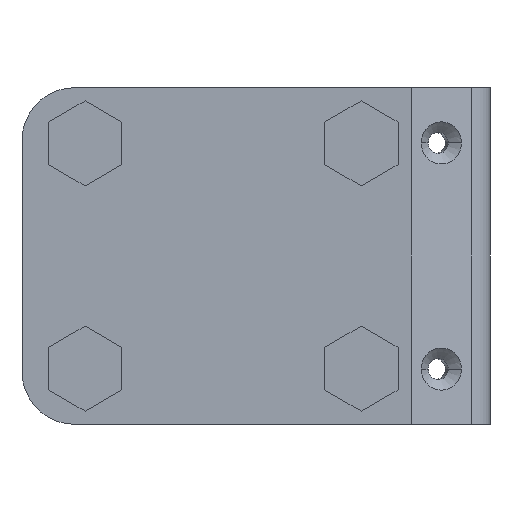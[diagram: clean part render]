
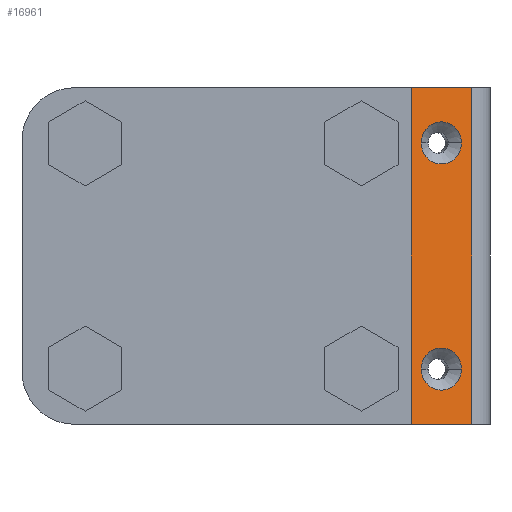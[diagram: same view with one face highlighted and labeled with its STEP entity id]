
A CAD part, front view. The second image highlights one B-rep face of the part: STEP entity #16961.
In plain terms, the highlighted planar face has unit normal (0.296, -0.955, 0).
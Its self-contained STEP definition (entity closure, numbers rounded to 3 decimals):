
#286 = CARTESIAN_POINT ( 'NONE',  ( 79.732, 1.774, -21.5 ) ) ;
#288 = CARTESIAN_POINT ( 'NONE',  ( 83.553, 2.957, -21.5 ) ) ;
#673 = CARTESIAN_POINT ( 'NONE',  ( 79.732, 1.774, 21.5 ) ) ;
#846 = EDGE_LOOP ( 'NONE', ( #17056, #4482 ) ) ;
#1059 = LINE ( 'NONE', #16083, #4406 ) ;
#1148 = CARTESIAN_POINT ( 'NONE',  ( 85.463, 3.548, 32. ) ) ;
#1209 = ORIENTED_EDGE ( 'NONE', *, *, #9148, .T. ) ;
#1581 = CARTESIAN_POINT ( 'NONE',  ( 74., 0., -32. ) ) ;
#1868 = CARTESIAN_POINT ( 'NONE',  ( 74., 0., -32. ) ) ;
#2055 = CARTESIAN_POINT ( 'NONE',  ( 85.463, 3.548, -32. ) ) ;
#2127 = AXIS2_PLACEMENT_3D ( 'NONE', #10452, #15737, #7795 ) ;
#3283 = LINE ( 'NONE', #1868, #6414 ) ;
#3586 = CARTESIAN_POINT ( 'NONE',  ( 75.911, 0.591, 21.5 ) ) ;
#3619 = FACE_OUTER_BOUND ( 'NONE', #12379, .T. ) ;
#3752 = LINE ( 'NONE', #3776, #10435 ) ;
#3776 = CARTESIAN_POINT ( 'NONE',  ( 74., 0., 32. ) ) ;
#4189 = VERTEX_POINT ( 'NONE', #8318 ) ;
#4406 = VECTOR ( 'NONE', #17266, 1000. ) ;
#4482 = ORIENTED_EDGE ( 'NONE', *, *, #6674, .T. ) ;
#4557 = EDGE_CURVE ( 'NONE', #12765, #5978, #7669, .T. ) ;
#4575 = DIRECTION ( 'NONE',  ( 0.955, 0.296, 0. ) ) ;
#4786 = VERTEX_POINT ( 'NONE', #288 ) ;
#4906 = ORIENTED_EDGE ( 'NONE', *, *, #13732, .T. ) ;
#5032 = AXIS2_PLACEMENT_3D ( 'NONE', #17138, #7698, #17255 ) ;
#5074 = FACE_BOUND ( 'NONE', #846, .T. ) ;
#5963 = VERTEX_POINT ( 'NONE', #16581 ) ;
#5978 = VERTEX_POINT ( 'NONE', #2055 ) ;
#6150 = CIRCLE ( 'NONE', #11145, 4. ) ;
#6336 = CARTESIAN_POINT ( 'NONE',  ( 75.911, 0.591, -21.5 ) ) ;
#6340 = EDGE_CURVE ( 'NONE', #4786, #9274, #13858, .T. ) ;
#6397 = DIRECTION ( 'NONE',  ( 0., 0., -1. ) ) ;
#6414 = VECTOR ( 'NONE', #4575, 1000. ) ;
#6674 = EDGE_CURVE ( 'NONE', #9274, #4786, #13841, .T. ) ;
#6752 = ORIENTED_EDGE ( 'NONE', *, *, #4557, .F. ) ;
#7284 = EDGE_LOOP ( 'NONE', ( #4906, #14583 ) ) ;
#7669 = LINE ( 'NONE', #11705, #15614 ) ;
#7698 = DIRECTION ( 'NONE',  ( -0.296, 0.955, 0. ) ) ;
#7795 = DIRECTION ( 'NONE',  ( -0.955, -0.296, 0. ) ) ;
#7859 = CARTESIAN_POINT ( 'NONE',  ( 79.732, 1.774, 21.5 ) ) ;
#8242 = EDGE_CURVE ( 'NONE', #4189, #12765, #1059, .T. ) ;
#8318 = CARTESIAN_POINT ( 'NONE',  ( 74., 0., 32. ) ) ;
#8350 = DIRECTION ( 'NONE',  ( -0.296, 0.955, 0. ) ) ;
#8410 = DIRECTION ( 'NONE',  ( -0.955, -0.296, 0. ) ) ;
#9148 = EDGE_CURVE ( 'NONE', #4189, #11429, #3752, .T. ) ;
#9236 = AXIS2_PLACEMENT_3D ( 'NONE', #673, #10040, #15216 ) ;
#9274 = VERTEX_POINT ( 'NONE', #6336 ) ;
#9627 = ORIENTED_EDGE ( 'NONE', *, *, #14730, .T. ) ;
#10040 = DIRECTION ( 'NONE',  ( -0.296, 0.955, 0. ) ) ;
#10426 = DIRECTION ( 'NONE',  ( 0., 0., -1. ) ) ;
#10435 = VECTOR ( 'NONE', #6397, 1000. ) ;
#10452 = CARTESIAN_POINT ( 'NONE',  ( 74., 0., 32. ) ) ;
#10564 = DIRECTION ( 'NONE',  ( -0.955, -0.296, 0. ) ) ;
#11145 = AXIS2_PLACEMENT_3D ( 'NONE', #7859, #15963, #10564 ) ;
#11397 = AXIS2_PLACEMENT_3D ( 'NONE', #286, #8350, #8410 ) ;
#11429 = VERTEX_POINT ( 'NONE', #1581 ) ;
#11705 = CARTESIAN_POINT ( 'NONE',  ( 85.463, 3.548, 32. ) ) ;
#12379 = EDGE_LOOP ( 'NONE', ( #9627, #6752, #14297, #1209 ) ) ;
#12717 = EDGE_CURVE ( 'NONE', #15487, #5963, #6150, .T. ) ;
#12765 = VERTEX_POINT ( 'NONE', #1148 ) ;
#13732 = EDGE_CURVE ( 'NONE', #5963, #15487, #14218, .T. ) ;
#13841 = CIRCLE ( 'NONE', #5032, 4. ) ;
#13858 = CIRCLE ( 'NONE', #11397, 4. ) ;
#14218 = CIRCLE ( 'NONE', #9236, 4. ) ;
#14297 = ORIENTED_EDGE ( 'NONE', *, *, #8242, .F. ) ;
#14448 = PLANE ( 'NONE',  #2127 ) ;
#14583 = ORIENTED_EDGE ( 'NONE', *, *, #12717, .T. ) ;
#14730 = EDGE_CURVE ( 'NONE', #11429, #5978, #3283, .T. ) ;
#15216 = DIRECTION ( 'NONE',  ( -0.955, -0.296, 0. ) ) ;
#15487 = VERTEX_POINT ( 'NONE', #3586 ) ;
#15614 = VECTOR ( 'NONE', #10426, 1000. ) ;
#15737 = DIRECTION ( 'NONE',  ( -0.296, 0.955, 0. ) ) ;
#15900 = FACE_BOUND ( 'NONE', #7284, .T. ) ;
#15963 = DIRECTION ( 'NONE',  ( -0.296, 0.955, 0. ) ) ;
#16083 = CARTESIAN_POINT ( 'NONE',  ( 74., 0., 32. ) ) ;
#16581 = CARTESIAN_POINT ( 'NONE',  ( 83.553, 2.957, 21.5 ) ) ;
#16961 = ADVANCED_FACE ( 'NONE', ( #5074, #15900, #3619 ), #14448, .F. ) ;
#17056 = ORIENTED_EDGE ( 'NONE', *, *, #6340, .T. ) ;
#17138 = CARTESIAN_POINT ( 'NONE',  ( 79.732, 1.774, -21.5 ) ) ;
#17255 = DIRECTION ( 'NONE',  ( -0.955, -0.296, 0. ) ) ;
#17266 = DIRECTION ( 'NONE',  ( 0.955, 0.296, 0. ) ) ;
